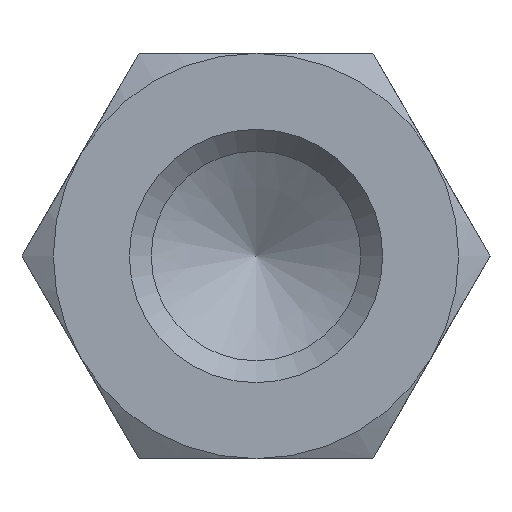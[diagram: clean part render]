
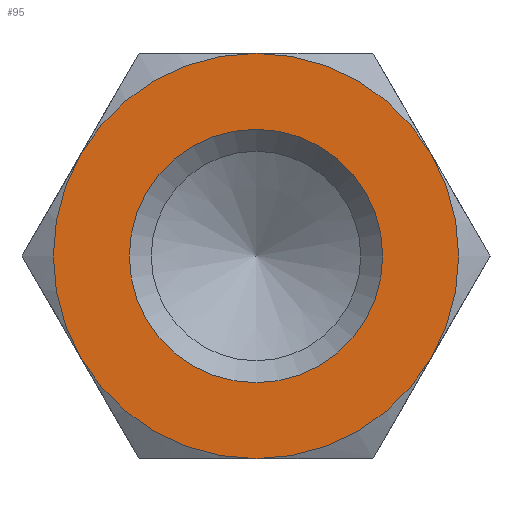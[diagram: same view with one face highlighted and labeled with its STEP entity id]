
A CAD part, left-side view. The second image highlights one B-rep face of the part: STEP entity #95.
In plain terms, the highlighted planar face has unit normal (-1, 0, 0).
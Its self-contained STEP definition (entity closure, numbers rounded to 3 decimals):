
#95 = ADVANCED_FACE( '', ( #147, #148 ), #149, .F. );
#147 = FACE_OUTER_BOUND( '', #206, .T. );
#148 = FACE_BOUND( '', #207, .T. );
#149 = PLANE( '', #208 );
#206 = EDGE_LOOP( '', ( #356, #357, #358, #359, #360, #361 ) );
#207 = EDGE_LOOP( '', ( #362 ) );
#208 = AXIS2_PLACEMENT_3D( '', #363, #364, #365 );
#356 = ORIENTED_EDGE( '', *, *, #440, .F. );
#357 = ORIENTED_EDGE( '', *, *, #425, .F. );
#358 = ORIENTED_EDGE( '', *, *, #441, .F. );
#359 = ORIENTED_EDGE( '', *, *, #437, .F. );
#360 = ORIENTED_EDGE( '', *, *, #442, .F. );
#361 = ORIENTED_EDGE( '', *, *, #443, .F. );
#362 = ORIENTED_EDGE( '', *, *, #439, .T. );
#363 = CARTESIAN_POINT( '', ( -45., 0., 0. ) );
#364 = DIRECTION( '', ( 1., 0., 0. ) );
#365 = DIRECTION( '', ( 0., 0., -1. ) );
#425 = EDGE_CURVE( '', #495, #493, #497, .T. );
#437 = EDGE_CURVE( '', #447, #506, #513, .T. );
#439 = EDGE_CURVE( '', #516, #516, #517, .T. );
#440 = EDGE_CURVE( '', #493, #486, #518, .T. );
#441 = EDGE_CURVE( '', #506, #495, #519, .T. );
#442 = EDGE_CURVE( '', #481, #447, #520, .T. );
#443 = EDGE_CURVE( '', #486, #481, #521, .T. );
#447 = VERTEX_POINT( '', #525 );
#481 = VERTEX_POINT( '', #595 );
#486 = VERTEX_POINT( '', #611 );
#493 = VERTEX_POINT( '', #632 );
#495 = VERTEX_POINT( '', #637 );
#497 = CIRCLE( '', #644, 4. );
#506 = VERTEX_POINT( '', #670 );
#513 = CIRCLE( '', #701, 4. );
#516 = VERTEX_POINT( '', #704 );
#517 = CIRCLE( '', #705, 2.5 );
#518 = CIRCLE( '', #706, 4. );
#519 = CIRCLE( '', #707, 4. );
#520 = CIRCLE( '', #708, 4. );
#521 = CIRCLE( '', #709, 4. );
#525 = CARTESIAN_POINT( '', ( -45., -3.464, 2. ) );
#595 = CARTESIAN_POINT( '', ( -45., 0., 4. ) );
#611 = CARTESIAN_POINT( '', ( -45., 3.464, 2. ) );
#632 = CARTESIAN_POINT( '', ( -45., 3.464, -2. ) );
#637 = CARTESIAN_POINT( '', ( -45., 0., -4. ) );
#644 = AXIS2_PLACEMENT_3D( '', #744, #745, #746 );
#670 = CARTESIAN_POINT( '', ( -45., -3.464, -2. ) );
#701 = AXIS2_PLACEMENT_3D( '', #749, #750, #751 );
#704 = CARTESIAN_POINT( '', ( -45., 0., -2.5 ) );
#705 = AXIS2_PLACEMENT_3D( '', #755, #756, #757 );
#706 = AXIS2_PLACEMENT_3D( '', #758, #759, #760 );
#707 = AXIS2_PLACEMENT_3D( '', #761, #762, #763 );
#708 = AXIS2_PLACEMENT_3D( '', #764, #765, #766 );
#709 = AXIS2_PLACEMENT_3D( '', #767, #768, #769 );
#744 = CARTESIAN_POINT( '', ( -45., 0., 0. ) );
#745 = DIRECTION( '', ( 1., 0., 0. ) );
#746 = DIRECTION( '', ( 0., 0., -1. ) );
#749 = CARTESIAN_POINT( '', ( -45., 0., 0. ) );
#750 = DIRECTION( '', ( 1., 0., 0. ) );
#751 = DIRECTION( '', ( 0., 0., -1. ) );
#755 = CARTESIAN_POINT( '', ( -45., 0., 0. ) );
#756 = DIRECTION( '', ( 1., 0., 0. ) );
#757 = DIRECTION( '', ( 0., 0., -1. ) );
#758 = CARTESIAN_POINT( '', ( -45., 0., 0. ) );
#759 = DIRECTION( '', ( 1., 0., 0. ) );
#760 = DIRECTION( '', ( 0., 0., -1. ) );
#761 = CARTESIAN_POINT( '', ( -45., 0., 0. ) );
#762 = DIRECTION( '', ( 1., 0., 0. ) );
#763 = DIRECTION( '', ( 0., 0., -1. ) );
#764 = CARTESIAN_POINT( '', ( -45., 0., 0. ) );
#765 = DIRECTION( '', ( 1., 0., 0. ) );
#766 = DIRECTION( '', ( 0., 0., -1. ) );
#767 = CARTESIAN_POINT( '', ( -45., 0., 0. ) );
#768 = DIRECTION( '', ( 1., 0., 0. ) );
#769 = DIRECTION( '', ( 0., 0., -1. ) );
